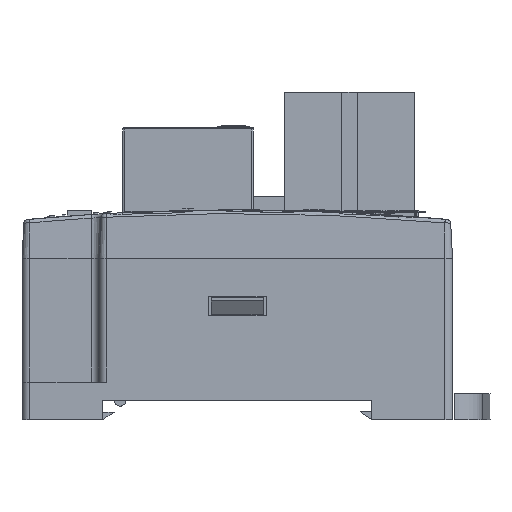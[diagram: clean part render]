
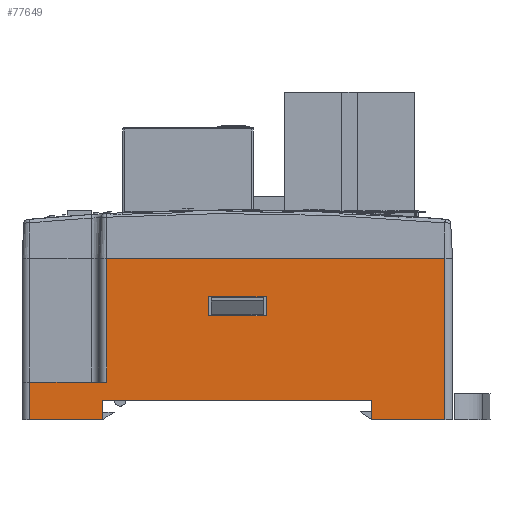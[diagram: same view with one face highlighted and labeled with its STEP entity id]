
A CAD part, left-side view. The second image highlights one B-rep face of the part: STEP entity #77649.
In plain terms, the highlighted planar face has unit normal (-1, 0, 0).
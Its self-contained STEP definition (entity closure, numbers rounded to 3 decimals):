
#4869=DIRECTION('',(0.,0.,1.));
#4870=VECTOR('',#4869,2.5);
#4871=CARTESIAN_POINT('',(-60.,17.5,-27.3));
#4872=LINE('',#4871,#4870);
#4937=DIRECTION('',(0.,-1.,0.));
#4938=VECTOR('',#4937,9.5);
#4939=CARTESIAN_POINT('',(-60.,-17.5,-27.3));
#4940=LINE('',#4939,#4938);
#4941=DIRECTION('',(0.,-1.,0.));
#4942=VECTOR('',#4941,9.5);
#4943=CARTESIAN_POINT('',(-60.,27.,-27.3));
#4944=LINE('',#4943,#4942);
#4949=DIRECTION('',(0.,0.,-1.));
#4950=VECTOR('',#4949,2.5);
#4951=CARTESIAN_POINT('',(-60.,-3.75,-11.3));
#4952=LINE('',#4951,#4950);
#5033=DIRECTION('',(0.,-1.,0.));
#5034=VECTOR('',#5033,7.5);
#5035=CARTESIAN_POINT('',(-60.,3.75,-11.3));
#5036=LINE('',#5035,#5034);
#5041=DIRECTION('',(0.,0.,1.));
#5042=VECTOR('',#5041,2.5);
#5043=CARTESIAN_POINT('',(-60.,3.75,-13.8));
#5044=LINE('',#5043,#5042);
#5049=DIRECTION('',(0.,1.,0.));
#5050=VECTOR('',#5049,7.5);
#5051=CARTESIAN_POINT('',(-60.,-3.75,-13.8));
#5052=LINE('',#5051,#5050);
#5057=DIRECTION('',(0.,0.,-1.));
#5058=VECTOR('',#5057,21.);
#5059=CARTESIAN_POINT('',(-60.,-27.,-6.3));
#5060=LINE('',#5059,#5058);
#5074=DIRECTION('',(0.,-1.,0.));
#5075=VECTOR('',#5074,44.);
#5076=CARTESIAN_POINT('',(-60.,17.,-6.3));
#5077=LINE('',#5076,#5075);
#5116=DIRECTION('',(0.,0.,1.));
#5117=VECTOR('',#5116,16.1);
#5118=CARTESIAN_POINT('',(-60.,17.,-22.4));
#5119=LINE('',#5118,#5117);
#5143=DIRECTION('',(0.,-1.,0.));
#5144=VECTOR('',#5143,10.);
#5145=CARTESIAN_POINT('',(-60.,27.,-22.4));
#5146=LINE('',#5145,#5144);
#5765=DIRECTION('',(0.,1.,0.));
#5766=VECTOR('',#5765,35.);
#5767=CARTESIAN_POINT('',(-60.,-17.5,-24.8));
#5768=LINE('',#5767,#5766);
#5785=DIRECTION('',(0.,0.,-1.));
#5786=VECTOR('',#5785,2.5);
#5787=CARTESIAN_POINT('',(-60.,-17.5,-24.8));
#5788=LINE('',#5787,#5786);
#32858=DIRECTION('',(0.,0.,1.));
#32859=VECTOR('',#32858,4.9);
#32860=CARTESIAN_POINT('',(-60.,27.,-27.3));
#32861=LINE('',#32860,#32859);
#65128=CARTESIAN_POINT('',(-60.,-27.,-27.3));
#65129=VERTEX_POINT('',#65128);
#65130=CARTESIAN_POINT('',(-60.,-17.5,-27.3));
#65131=VERTEX_POINT('',#65130);
#65158=CARTESIAN_POINT('',(-60.,17.5,-27.3));
#65159=VERTEX_POINT('',#65158);
#65160=CARTESIAN_POINT('',(-60.,27.,-27.3));
#65161=VERTEX_POINT('',#65160);
#65198=CARTESIAN_POINT('',(-60.,-17.5,-24.8));
#65199=CARTESIAN_POINT('',(-60.,17.5,-24.8));
#65200=VERTEX_POINT('',#65198);
#65201=VERTEX_POINT('',#65199);
#65202=CARTESIAN_POINT('',(-60.,27.,-22.4));
#65203=VERTEX_POINT('',#65202);
#65204=CARTESIAN_POINT('',(-60.,17.,-22.4));
#65205=VERTEX_POINT('',#65204);
#65206=CARTESIAN_POINT('',(-60.,-3.75,-11.3));
#65207=CARTESIAN_POINT('',(-60.,-3.75,-13.8));
#65208=VERTEX_POINT('',#65206);
#65209=VERTEX_POINT('',#65207);
#65210=CARTESIAN_POINT('',(-60.,3.75,-11.3));
#65211=VERTEX_POINT('',#65210);
#65212=CARTESIAN_POINT('',(-60.,3.75,-13.8));
#65213=VERTEX_POINT('',#65212);
#71652=CARTESIAN_POINT('',(-60.,17.,-6.3));
#71653=CARTESIAN_POINT('',(-60.,-27.,-6.3));
#71654=VERTEX_POINT('',#71652);
#71655=VERTEX_POINT('',#71653);
#77614=CARTESIAN_POINT('',(-60.,0.,-16.8));
#77615=DIRECTION('',(1.,0.,0.));
#77616=DIRECTION('',(0.,-1.,0.));
#77617=AXIS2_PLACEMENT_3D('',#77614,#77615,#77616);
#77618=PLANE('',#77617);
#77620=ORIENTED_EDGE('',*,*,#77619,.T.);
#77622=ORIENTED_EDGE('',*,*,#77621,.F.);
#77624=ORIENTED_EDGE('',*,*,#77623,.F.);
#77626=ORIENTED_EDGE('',*,*,#77625,.T.);
#77627=ORIENTED_EDGE('',*,*,#77480,.F.);
#77628=ORIENTED_EDGE('',*,*,#77392,.F.);
#77630=ORIENTED_EDGE('',*,*,#77629,.T.);
#77632=ORIENTED_EDGE('',*,*,#77631,.T.);
#77634=ORIENTED_EDGE('',*,*,#77633,.T.);
#77636=ORIENTED_EDGE('',*,*,#77635,.T.);
#77637=EDGE_LOOP('',(#77620,#77622,#77624,#77626,#77627,#77628,#77630,#77632,
#77634,#77636));
#77638=FACE_OUTER_BOUND('',#77637,.F.);
#77640=ORIENTED_EDGE('',*,*,#77639,.F.);
#77642=ORIENTED_EDGE('',*,*,#77641,.F.);
#77644=ORIENTED_EDGE('',*,*,#77643,.F.);
#77646=ORIENTED_EDGE('',*,*,#77645,.F.);
#77647=EDGE_LOOP('',(#77640,#77642,#77644,#77646));
#77648=FACE_BOUND('',#77647,.F.);
#77649=ADVANCED_FACE('',(#77638,#77648),#77618,.F.);
#77392=EDGE_CURVE('',#65161,#65159,#4944,.T.);
#77480=EDGE_CURVE('',#65159,#65201,#4872,.T.);
#77619=EDGE_CURVE('',#71655,#65129,#5060,.T.);
#77621=EDGE_CURVE('',#65131,#65129,#4940,.T.);
#77623=EDGE_CURVE('',#65200,#65131,#5788,.T.);
#77625=EDGE_CURVE('',#65200,#65201,#5768,.T.);
#77629=EDGE_CURVE('',#65161,#65203,#32861,.T.);
#77631=EDGE_CURVE('',#65203,#65205,#5146,.T.);
#77633=EDGE_CURVE('',#65205,#71654,#5119,.T.);
#77635=EDGE_CURVE('',#71654,#71655,#5077,.T.);
#77639=EDGE_CURVE('',#65208,#65209,#4952,.T.);
#77641=EDGE_CURVE('',#65211,#65208,#5036,.T.);
#77643=EDGE_CURVE('',#65213,#65211,#5044,.T.);
#77645=EDGE_CURVE('',#65209,#65213,#5052,.T.);
